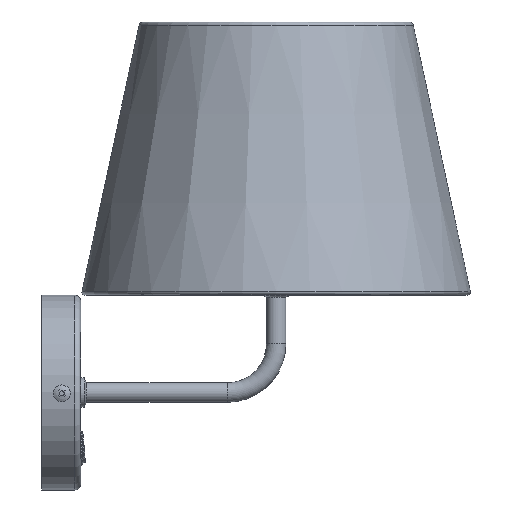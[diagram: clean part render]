
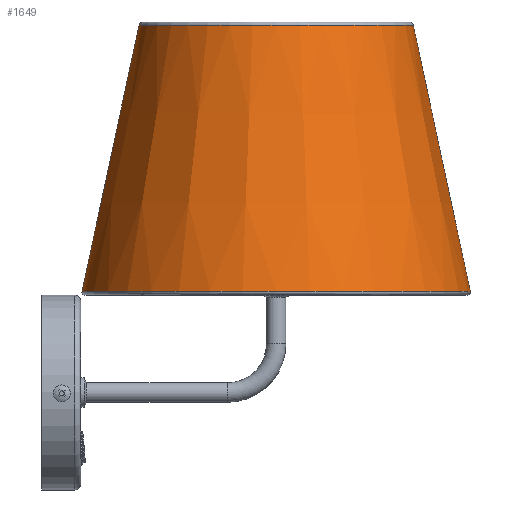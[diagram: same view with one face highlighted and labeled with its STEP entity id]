
A CAD part, top view. The second image highlights one B-rep face of the part: STEP entity #1649.
In plain terms, the highlighted conical face has half-angle 12.095 degrees and reference radius 100 mm.
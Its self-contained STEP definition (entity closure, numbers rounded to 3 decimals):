
#30=CONICAL_SURFACE('',#1868,100.,0.211);
#258=FACE_OUTER_BOUND('',#379,.T.);
#379=EDGE_LOOP('',(#1378,#1379,#1380,#1381,#1382,#1383));
#502=LINE('',#3149,#589);
#589=VECTOR('',#2289,100.);
#657=CIRCLE('',#1865,99.611);
#658=CIRCLE('',#1866,99.611);
#660=CIRCLE('',#1869,70.339);
#661=CIRCLE('',#1870,70.339);
#813=VERTEX_POINT('',#3139);
#814=VERTEX_POINT('',#3140);
#815=VERTEX_POINT('',#3145);
#816=VERTEX_POINT('',#3146);
#1008=EDGE_CURVE('',#813,#814,#657,.T.);
#1009=EDGE_CURVE('',#814,#813,#658,.T.);
#1011=EDGE_CURVE('',#815,#816,#660,.T.);
#1012=EDGE_CURVE('',#816,#815,#661,.T.);
#1013=EDGE_CURVE('',#816,#814,#502,.T.);
#1378=ORIENTED_EDGE('',*,*,#1011,.F.);
#1379=ORIENTED_EDGE('',*,*,#1012,.F.);
#1380=ORIENTED_EDGE('',*,*,#1013,.T.);
#1381=ORIENTED_EDGE('',*,*,#1008,.F.);
#1382=ORIENTED_EDGE('',*,*,#1009,.F.);
#1383=ORIENTED_EDGE('',*,*,#1013,.F.);
#1649=ADVANCED_FACE('',(#258),#30,.T.);
#1865=AXIS2_PLACEMENT_3D('',#3141,#2277,#2278);
#1866=AXIS2_PLACEMENT_3D('',#3142,#2279,#2280);
#1868=AXIS2_PLACEMENT_3D('',#3144,#2283,#2284);
#1869=AXIS2_PLACEMENT_3D('',#3147,#2285,#2286);
#1870=AXIS2_PLACEMENT_3D('',#3148,#2287,#2288);
#2277=DIRECTION('center_axis',(0.,-1.,0.));
#2278=DIRECTION('ref_axis',(-1.,0.,0.));
#2279=DIRECTION('center_axis',(0.,-1.,0.));
#2280=DIRECTION('ref_axis',(-1.,0.,0.));
#2283=DIRECTION('center_axis',(0.,-1.,0.));
#2284=DIRECTION('ref_axis',(1.,0.,0.));
#2285=DIRECTION('center_axis',(0.,1.,0.));
#2286=DIRECTION('ref_axis',(-1.,0.,0.));
#2287=DIRECTION('center_axis',(0.,1.,0.));
#2288=DIRECTION('ref_axis',(-1.,0.,0.));
#2289=DIRECTION('',(-0.21,-0.978,0.));
#3139=CARTESIAN_POINT('',(0.,168.761,-99.611));
#3140=CARTESIAN_POINT('',(-99.611,168.761,0.));
#3141=CARTESIAN_POINT('Origin',(0.,168.761,0.));
#3142=CARTESIAN_POINT('Origin',(0.,168.761,0.));
#3144=CARTESIAN_POINT('Origin',(0.,166.947,0.));
#3145=CARTESIAN_POINT('',(0.,305.366,70.339));
#3146=CARTESIAN_POINT('',(-70.339,305.366,0.));
#3147=CARTESIAN_POINT('Origin',(0.,305.366,0.));
#3148=CARTESIAN_POINT('Origin',(0.,305.366,0.));
#3149=CARTESIAN_POINT('',(-100.,166.947,0.));
